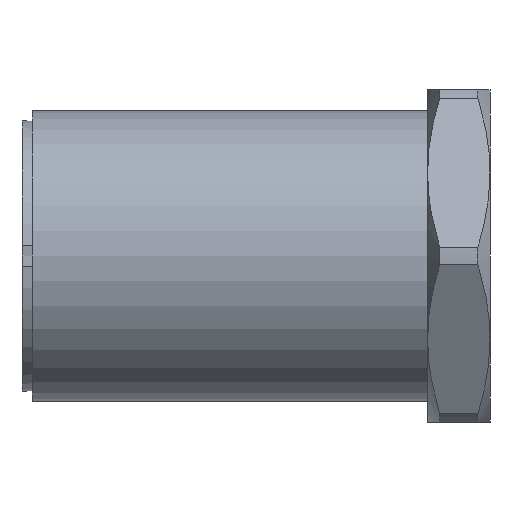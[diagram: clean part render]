
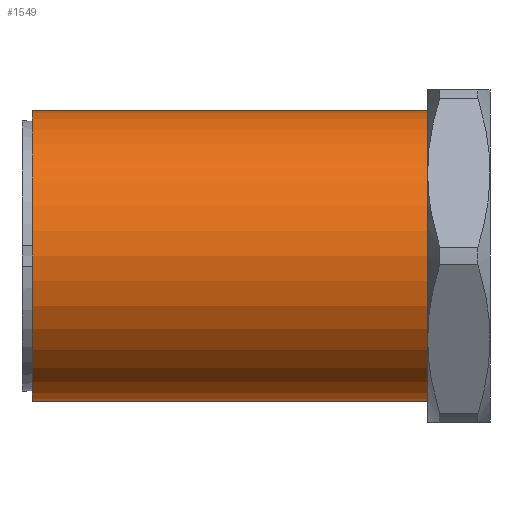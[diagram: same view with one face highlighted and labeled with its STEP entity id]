
A CAD part, front view. The second image highlights one B-rep face of the part: STEP entity #1549.
In plain terms, the highlighted cylindrical face has radius 7 mm (diameter 14 mm), a partial arc.
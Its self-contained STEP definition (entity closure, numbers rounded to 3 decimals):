
#29 = VERTEX_POINT ( 'NONE', #99 ) ;
#30 = VERTEX_POINT ( 'NONE', #100 ) ;
#32 = VERTEX_POINT ( 'NONE', #102 ) ;
#33 = VERTEX_POINT ( 'NONE', #103 ) ;
#99 = CARTESIAN_POINT ( 'NONE',  ( 19., 0., -7. ) ) ;
#100 = CARTESIAN_POINT ( 'NONE',  ( 0., 0., -7. ) ) ;
#102 = CARTESIAN_POINT ( 'NONE',  ( 19., 0., 7. ) ) ;
#103 = CARTESIAN_POINT ( 'NONE',  ( 0., 0., 7. ) ) ;
#425 = CARTESIAN_POINT ( 'NONE',  ( 0., 0., 0. ) ) ;
#427 = DIRECTION ( 'NONE',  ( -1., 0., 0. ) ) ;
#428 = DIRECTION ( 'NONE',  ( 0., 0., 1. ) ) ;
#436 = CARTESIAN_POINT ( 'NONE',  ( 0., 0., 7. ) ) ;
#437 = DIRECTION ( 'NONE',  ( -1., 0., 0. ) ) ;
#443 = CARTESIAN_POINT ( 'NONE',  ( 0., 0., -7. ) ) ;
#444 = DIRECTION ( 'NONE',  ( -1., 0., 0. ) ) ;
#445 = CARTESIAN_POINT ( 'NONE',  ( 19., 0., 0. ) ) ;
#456 = DIRECTION ( 'NONE',  ( -1., 0., 0. ) ) ;
#457 = DIRECTION ( 'NONE',  ( 0., 0., 1. ) ) ;
#591 = DIRECTION ( 'NONE',  ( -1., 0., 0. ) ) ;
#594 = DIRECTION ( 'NONE',  ( 0., 0., 1. ) ) ;
#595 = CARTESIAN_POINT ( 'NONE',  ( 0., 0., 0. ) ) ;
#861 = EDGE_LOOP ( 'NONE', ( #1391, #1392, #1393, #1394 ) ) ;
#956 = EDGE_CURVE ( 'NONE', #30, #33, #1177, .T. ) ;
#959 = EDGE_CURVE ( 'NONE', #32, #33, #1165, .T. ) ;
#962 = EDGE_CURVE ( 'NONE', #29, #30, #1184, .T. ) ;
#967 = EDGE_CURVE ( 'NONE', #29, #32, #1192, .T. ) ;
#1024 = AXIS2_PLACEMENT_3D ( 'NONE', #595, #591, #594 ) ;
#1050 = AXIS2_PLACEMENT_3D ( 'NONE', #445, #456, #457 ) ;
#1056 = AXIS2_PLACEMENT_3D ( 'NONE', #425, #427, #428 ) ;
#1165 = LINE ( 'NONE', #436, #1171 ) ;
#1171 = VECTOR ( 'NONE', #437, 1000. ) ;
#1177 = CIRCLE ( 'NONE', #1056, 7. ) ;
#1184 = LINE ( 'NONE', #443, #1185 ) ;
#1185 = VECTOR ( 'NONE', #444, 1000. ) ;
#1192 = CIRCLE ( 'NONE', #1050, 7. ) ;
#1258 = FACE_OUTER_BOUND ( 'NONE', #861, .T. ) ;
#1264 = CYLINDRICAL_SURFACE ( 'NONE', #1024, 7. ) ;
#1391 = ORIENTED_EDGE ( 'NONE', *, *, #962, .F. ) ;
#1392 = ORIENTED_EDGE ( 'NONE', *, *, #967, .T. ) ;
#1393 = ORIENTED_EDGE ( 'NONE', *, *, #959, .T. ) ;
#1394 = ORIENTED_EDGE ( 'NONE', *, *, #956, .F. ) ;
#1549 = ADVANCED_FACE ( 'NONE', ( #1258 ), #1264, .T. ) ;
